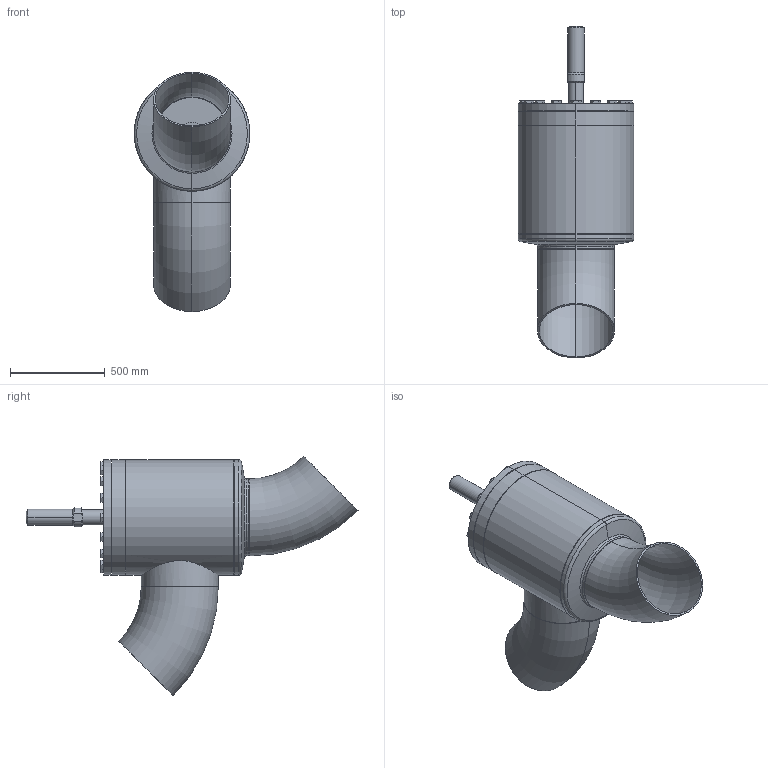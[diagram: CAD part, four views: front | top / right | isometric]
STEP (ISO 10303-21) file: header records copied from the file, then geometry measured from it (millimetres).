
FILE_DESCRIPTION (( 'STEP AP214' ), '1' );
FILE_NAME ('AVR26300C27-DN400_R1_PS25.STEP', '2006-04-28T08:26:40', ( 'Herr Grams' ), ( 'AWP GmbH' ), 'SwSTEP 2.0', 'SolidWorks 2002296', '' );
FILE_SCHEMA (( 'AUTOMOTIVE_DESIGN' ));
Length unit declared in the file: millimetre
Products named in the file (18): AVR26300C27-DN400_R1_PS25; Gehäuse-kpl26300-DN400_R1_Standard; Boden26300-DN400_Standard; Gehäuse26300-DN400_Standard; Kopfstück26300-DN400_Standard; Rohrstutzen-A26300-DN400_R1_Standard; Rohrbogen 45°_Rohrbogen-DN400-45°; bead-DN400-4_Standard; bead-DN400-3_Standard; bead-DN400-2_Standard; bead-DN400-1_Standard; AVR26300B27_Deck+Schr-DN400_Standard; Deckel-kpl26300-DN400_Standard; Scheibe f Deckel26300-DN400_Standard; Buchse1 f Deckel26300-DN400_Standard; bead-deck263-400_Standard; Sechskantschraube-DIN933_M30x 80; Kappe26300_DN400geschw_Standard
Assembly tree (33 placements, depth 4):
  AVR26300C27-DN400_R1_PS25
    AVR26300B27_Deck+Schr-DN400_Standard
      Sechskantschraube-DIN933_M30x 80  x16
      Deckel-kpl26300-DN400_Standard
        Scheibe f Deckel26300-DN400_Standard
        bead-deck263-400_Standard
        Buchse1 f Deckel26300-DN400_Standard
    Gehäuse-kpl26300-DN400_R1_Standard
      bead-DN400-1_Standard
      bead-DN400-3_Standard
      Rohrstutzen-A26300-DN400_R1_Standard
      Kopfstück26300-DN400_Standard
      Boden26300-DN400_Standard
      Rohrbogen 45°_Rohrbogen-DN400-45°  x2
      Gehäuse26300-DN400_Standard
      bead-DN400-4_Standard
      bead-DN400-2_Standard
    Kappe26300_DN400geschw_Standard
Bounding box: 610.47 x 1753.02 x 1263.37 mm (x, y, z)
Volume: 68571622.4 mm3; surface area: 7683732.9 mm2
Topology: 30 solids, 30 shells, 583 faces, 1242 edges, 746 vertices
Faces by surface type: cone 244, plane 186, cylinder 125, bspline 16, torus 12
Entity records: 9608 total; most frequent: CARTESIAN_POINT 4096, DIRECTION 1040, ORIENTED_EDGE 900, AXIS2_PLACEMENT_3D 457, EDGE_CURVE 450, VERTEX_POINT 288, EDGE_LOOP 272, CIRCLE 232
